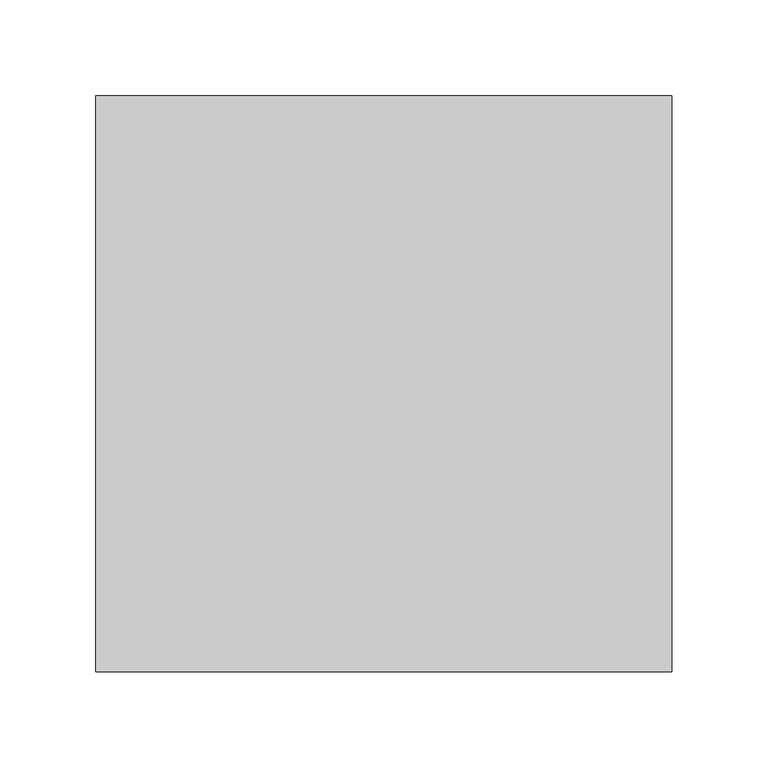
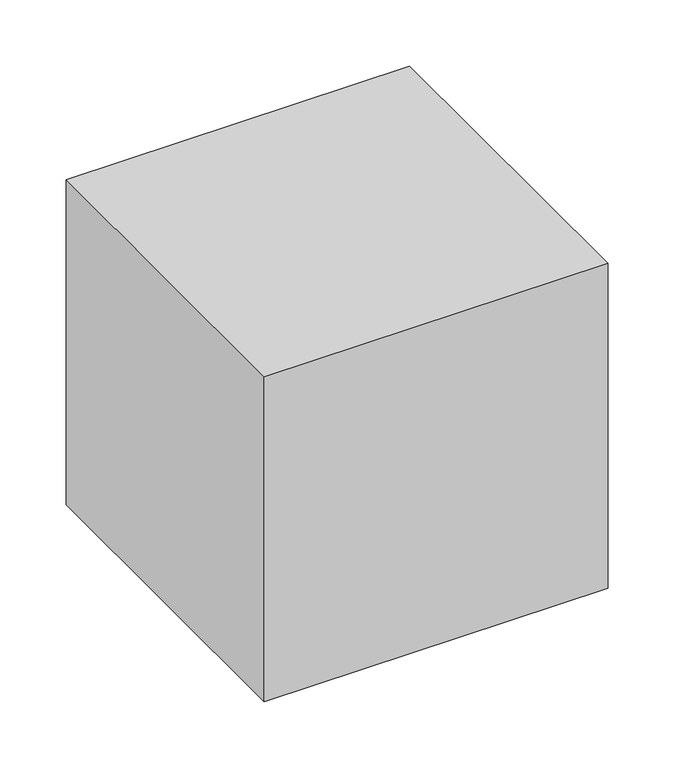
"""IFC4 building model written with IfcOpenShell, lengths in millimetres: proxy geometry, 制気口ボックス : 制気口ボックス."""

import ifcopenshell
import ifcopenshell.guid

model = None  # the IFC model being written
_history = None  # IfcOwnerHistory: only IFC2X3 demands one
_inside = {}  # id of a spatial element -> (the spatial element, [elements in it])
_under = {}  # id of a project, library or spatial element -> (it, [spatial elements below it])
_declared = {}  # id of a project -> (the project, [libraries it declares])
_typed = {}  # id of a type object -> (the type object, [elements of that type])
_made_of = {}  # id of a material, layer set ... -> (it, [elements and type objects made of it])


def new_model(schema):
    """Start an empty IFC model of exactly this schema.

    Asked for "IFC4X3", IfcOpenShell would pick the latest addendum, in which some entities
    have other attributes; the version numbers below select the first issue.
    IFC2X3 requires an IfcOwnerHistory on every rooted entity: one is made here for all.
    """
    global model, _history
    if schema == "IFC4X3":
        model = ifcopenshell.file(schema_version=(4, 3, 0, 0))
    else:
        model = ifcopenshell.file(schema=schema)
    _inside.clear()
    _under.clear()
    _declared.clear()
    _typed.clear()
    _made_of.clear()
    _history = None
    if model.schema == "IFC2X3":
        org = make("IfcOrganization", Name="unknown")
        user = make(
            "IfcPersonAndOrganization",
            ThePerson=make("IfcPerson", FamilyName="unknown"),
            TheOrganization=org,
        )
        app = make(
            "IfcApplication",
            ApplicationDeveloper=org,
            Version="unknown",
            ApplicationFullName="unknown",
            ApplicationIdentifier="unknown",
        )
        _history = make(
            "IfcOwnerHistory",
            OwningUser=user,
            OwningApplication=app,
            ChangeAction="ADDED",
            CreationDate=0,
        )
    return model


def make(cls, **values):
    """One entity of the class cls with the attributes given. An attribute that is None is left unset."""
    return model.create_entity(
        cls, **{name: value for name, value in values.items() if value is not None}
    )


def rooted(cls, **values):
    """An entity with a GlobalId (a new one), such as an element, a storey or a relation."""
    return make(cls, GlobalId=ifcopenshell.guid.new(), OwnerHistory=_history, **values)


def si_unit(unit_type, name, prefix=None):
    """IfcSIUnit, for example si_unit("LENGTHUNIT", "METRE", prefix="MILLI")."""
    return make("IfcSIUnit", UnitType=unit_type, Prefix=prefix, Name=name)


def assignment(units):
    """IfcUnitAssignment: the units of a project."""
    return None if units is None else make("IfcUnitAssignment", Units=units)


def point(xyz):
    """IfcCartesianPoint."""
    return None if xyz is None else make("IfcCartesianPoint", Coordinates=xyz)


def direction(xyz):
    """IfcDirection."""
    return None if xyz is None else make("IfcDirection", DirectionRatios=xyz)


def frame(location, z_axis=None, x_axis=None):
    """IfcAxis2Placement3D, a coordinate frame: its origin and axes. An axis left out is left unset."""
    return make(
        "IfcAxis2Placement3D",
        Location=point(location),
        Axis=direction(z_axis),
        RefDirection=direction(x_axis),
    )


def origin():
    """The frame at (0, 0, 0) with its axes left unset."""
    return frame((0.0, 0.0, 0.0))


def place(relative_to, where):
    """IfcLocalPlacement: puts the frame where relative to a parent placement (None: the world)."""
    return make(
        "IfcLocalPlacement", PlacementRelTo=relative_to, RelativePlacement=where
    )


def context(
    kind, dimensions, precision=None, world=None, true_north=None, identifier=None
):
    """IfcGeometricRepresentationContext, for example the 3D "Model" context."""
    return make(
        "IfcGeometricRepresentationContext",
        ContextIdentifier=identifier,
        ContextType=kind,
        CoordinateSpaceDimension=dimensions,
        Precision=precision,
        WorldCoordinateSystem=world,
        TrueNorth=true_north,
    )


def project(units=None, contexts=None):
    """IfcProject with its units and contexts."""
    return rooted(
        "IfcProject",
        Name="project",
        RepresentationContexts=contexts,
        UnitsInContext=assignment(units),
    )


def spatial(cls, under=None, at=None, **own):
    """A site, building, storey or space (cls), placed at a placement, below another one or the project."""
    s = rooted(cls, ObjectPlacement=at, **own)
    if under is not None:
        _under.setdefault(under.id(), (under, []))[1].append(s)
    return s


def polyline(points):
    """IfcPolyline through the points."""
    return make("IfcPolyline", Points=[point(p) for p in points])


def outline(outer, holes=None, kind="AREA"):
    """IfcArbitraryClosedProfileDef: a profile drawn as a closed curve; with holes, ...WithVoids."""
    if holes is None:
        return make("IfcArbitraryClosedProfileDef", ProfileType=kind, OuterCurve=outer)
    return make(
        "IfcArbitraryProfileDefWithVoids",
        ProfileType=kind,
        OuterCurve=outer,
        InnerCurves=holes,
    )


def extrude(swept, where, along, depth):
    """IfcExtrudedAreaSolid: the profile swept, set in the frame where, extruded along a direction by depth."""
    return make(
        "IfcExtrudedAreaSolid",
        SweptArea=swept,
        Position=where,
        ExtrudedDirection=direction(along),
        Depth=depth,
    )


def shape(context_of_items, identifier, shape_type, items):
    """IfcShapeRepresentation: the items that make up one representation, for example the "Body"."""
    return make(
        "IfcShapeRepresentation",
        ContextOfItems=context_of_items,
        RepresentationIdentifier=identifier,
        RepresentationType=shape_type,
        Items=items,
    )


def source(mapping_origin, context_of_items, identifier, shape_type, items):
    """IfcRepresentationMap: a shape defined once, which mapped items show again and again."""
    return make(
        "IfcRepresentationMap",
        MappingOrigin=mapping_origin,
        MappedRepresentation=shape(context_of_items, identifier, shape_type, items),
    )


def transform(
    local_origin,
    x_axis=None,
    y_axis=None,
    z_axis=None,
    scale=None,
    scale2=None,
    scale3=None,
    uniform=True,
):
    """IfcCartesianTransformationOperator3D, or its non-uniform kind. x_axis, y_axis, z_axis: its Axis1, 2, 3."""
    if uniform:
        return make(
            "IfcCartesianTransformationOperator3D",
            Axis1=direction(x_axis),
            Axis2=direction(y_axis),
            LocalOrigin=point(local_origin),
            Scale=scale,
            Axis3=direction(z_axis),
        )
    return make(
        "IfcCartesianTransformationOperator3DnonUniform",
        Axis1=direction(x_axis),
        Axis2=direction(y_axis),
        LocalOrigin=point(local_origin),
        Scale=scale,
        Axis3=direction(z_axis),
        Scale2=scale2,
        Scale3=scale3,
    )


def mapped(mapping_source, mapping_target):
    """IfcMappedItem: shows the shape of a source again, moved by a transform."""
    return make(
        "IfcMappedItem", MappingSource=mapping_source, MappingTarget=mapping_target
    )


def made_of(thing, what):
    """Note that an element or type object is made of a material, layer set ...; save() writes the relation."""
    if what is not None:
        _made_of.setdefault(what.id(), (what, []))[1].append(thing)
    return thing


def element(
    cls,
    number,
    at=None,
    inside=None,
    cuts=None,
    type_object=None,
    material=None,
    context=None,
    identifier="Body",
    shape_type=None,
    held_by="IfcProductDefinitionShape",
    body=None,
    shapes=None,
    **own,
):
    """One element of the class cls, such as IfcWall. Its Tag is "e" and its number.

    at: its placement. inside: the storey or other place that contains it. cuts: it is an
    opening in that element (IfcRelVoidsElement). A single representation is given by context,
    identifier, shape_type and body (its items); several are given by shapes. held_by: the class
    of the entity that holds the representations. save() writes the other relations.
    """
    e = rooted(cls, Tag="e%d" % number, ObjectPlacement=at, **own)
    if body is not None:
        shapes = [shape(context, identifier, shape_type, body)]
    if shapes is not None:
        e.Representation = make(held_by, Representations=shapes)
    if inside is not None:
        _inside.setdefault(inside.id(), (inside, []))[1].append(e)
    if cuts is not None:
        rooted(
            "IfcRelVoidsElement", RelatingBuildingElement=cuts, RelatedOpeningElement=e
        )
    if type_object is not None:
        _typed.setdefault(type_object.id(), (type_object, []))[1].append(e)
    return made_of(e, material)


def aggregate(whole, parts):
    """IfcRelAggregates: a whole, such as a stair, and the parts it consists of."""
    return rooted("IfcRelAggregates", RelatingObject=whole, RelatedObjects=parts)


def save(model, path):
    """Write the relations noted so far, then the file.

    IfcRelAggregates (storeys below a building ...), IfcRelContainedInSpatialStructure (elements
    in a storey), IfcRelDefinesByType, IfcRelAssociatesMaterial and IfcRelDeclares: one each for
    every whole, place, type object, material and project.
    """
    for whole, parts in _under.values():
        aggregate(whole, parts)
    for where, things in _inside.values():
        rooted(
            "IfcRelContainedInSpatialStructure",
            RelatedElements=things,
            RelatingStructure=where,
        )
    for kind, things in _typed.values():
        rooted("IfcRelDefinesByType", RelatedObjects=things, RelatingType=kind)
    for what, things in _made_of.values():
        rooted("IfcRelAssociatesMaterial", RelatedObjects=things, RelatingMaterial=what)
    for by, libraries in _declared.values():
        rooted("IfcRelDeclares", RelatingContext=by, RelatedDefinitions=libraries)
    model.write(path)


def mechanical_equipment_34d83c18(model_context):
    return source(origin(), model_context, "Body", "SweptSolid", [
        extrude(outline(polyline([(150.0, -150.0), (-150.0, -150.0), (-150.0, 150.0), (150.0, 150.0), (150.0, -150.0)])), frame((0.0, 0.0, -150.0), z_axis=(0.0, 0.0, 1.0), x_axis=(1.0, 0.0, 0.0)), (0.0, 0.0, 1.0), 300.0),
    ])


if __name__ == "__main__":
    model = new_model("IFC4")
    model_context = context("Model", 3, world=origin())
    ifc_project = project(units=[si_unit("LENGTHUNIT", "METRE", prefix="MILLI")], contexts=[model_context])
    site = spatial("IfcSite", under=ifc_project)
    building = spatial("IfcBuilding", under=site)
    placement = place(None, origin())
    mechanical_equipment_shape = mechanical_equipment_34d83c18(model_context)
    element("IfcBuildingElementProxy", 1, Name="制気口ボックス : 制気口ボックス", ObjectType="制気口ボックス : 制気口ボックス", at=placement, inside=building, context=model_context, shape_type="MappedRepresentation", body=[
        mapped(mechanical_equipment_shape, transform((0.0, 0.0, 0.0), x_axis=(1.0, 0.0, 0.0), y_axis=(0.0, 1.0, 0.0), z_axis=(0.0, 0.0, 1.0))),
    ])
    save(model, "model.ifc")
